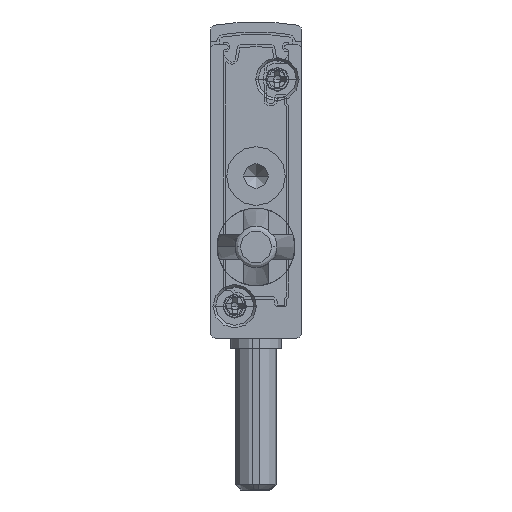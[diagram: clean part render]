
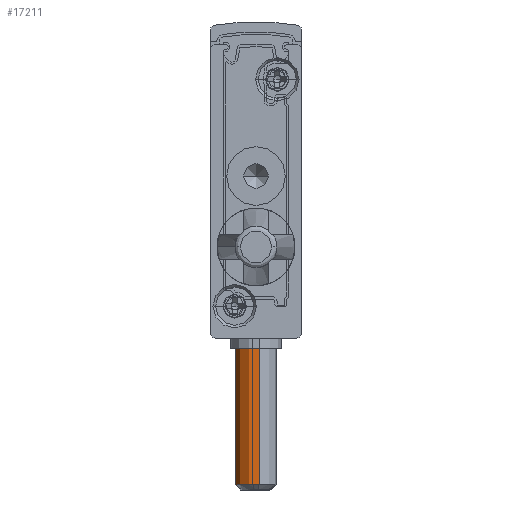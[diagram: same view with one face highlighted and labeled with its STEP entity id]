
A CAD part, front view. The second image highlights one B-rep face of the part: STEP entity #17211.
In plain terms, the highlighted cylindrical face has radius 2 mm (diameter 4 mm), a partial arc.
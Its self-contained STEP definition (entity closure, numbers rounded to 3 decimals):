
#753 = EDGE_CURVE ( 'NONE', #29973, #27227, #32792, .T. ) ;
#3829 = CIRCLE ( 'NONE', #32433, 2. ) ;
#4723 = VECTOR ( 'NONE', #4887, 1000. ) ;
#4803 = DIRECTION ( 'NONE',  ( 0., 0., -1. ) ) ;
#4887 = DIRECTION ( 'NONE',  ( 0., 0., 1. ) ) ;
#6397 = CARTESIAN_POINT ( 'NONE',  ( -4.801, 2574.477, -1. ) ) ;
#7957 = CARTESIAN_POINT ( 'NONE',  ( -4.199, 2570.523, -15. ) ) ;
#8160 = VERTEX_POINT ( 'NONE', #32680 ) ;
#8552 = VECTOR ( 'NONE', #31752, 1000. ) ;
#9531 = AXIS2_PLACEMENT_3D ( 'NONE', #30850, #4803, #28291 ) ;
#11361 = ORIENTED_EDGE ( 'NONE', *, *, #33575, .T. ) ;
#11560 = CYLINDRICAL_SURFACE ( 'NONE', #23673, 2. ) ;
#12357 = ORIENTED_EDGE ( 'NONE', *, *, #20416, .T. ) ;
#12433 = CARTESIAN_POINT ( 'NONE',  ( -4.801, 2574.477, -14.5 ) ) ;
#12617 = CARTESIAN_POINT ( 'NONE',  ( -4.199, 2570.523, -1. ) ) ;
#13318 = CARTESIAN_POINT ( 'NONE',  ( -4.5, 2572.5, -15. ) ) ;
#15384 = DIRECTION ( 'NONE',  ( 0., 0., 1. ) ) ;
#15576 = LINE ( 'NONE', #7957, #8552 ) ;
#16773 = ORIENTED_EDGE ( 'NONE', *, *, #27344, .T. ) ;
#17211 = ADVANCED_FACE ( 'NONE', ( #21028 ), #11560, .T. ) ;
#17368 = CARTESIAN_POINT ( 'NONE',  ( -4.5, 2572.5, -14.5 ) ) ;
#19667 = ORIENTED_EDGE ( 'NONE', *, *, #753, .F. ) ;
#20416 = EDGE_CURVE ( 'NONE', #8160, #28880, #15576, .T. ) ;
#21028 = FACE_OUTER_BOUND ( 'NONE', #31628, .T. ) ;
#23075 = CARTESIAN_POINT ( 'NONE',  ( -4.801, 2574.477, -15. ) ) ;
#23673 = AXIS2_PLACEMENT_3D ( 'NONE', #13318, #26795, #23802 ) ;
#23802 = DIRECTION ( 'NONE',  ( -0.15, 0.989, 0. ) ) ;
#26795 = DIRECTION ( 'NONE',  ( 0., 0., 1. ) ) ;
#27227 = VERTEX_POINT ( 'NONE', #6397 ) ;
#27344 = EDGE_CURVE ( 'NONE', #29973, #8160, #3829, .T. ) ;
#28291 = DIRECTION ( 'NONE',  ( 0.15, -0.989, 0. ) ) ;
#28880 = VERTEX_POINT ( 'NONE', #12617 ) ;
#29973 = VERTEX_POINT ( 'NONE', #12433 ) ;
#30850 = CARTESIAN_POINT ( 'NONE',  ( -4.5, 2572.5, -1. ) ) ;
#31436 = DIRECTION ( 'NONE',  ( 0.15, -0.989, 0. ) ) ;
#31628 = EDGE_LOOP ( 'NONE', ( #16773, #12357, #11361, #19667 ) ) ;
#31752 = DIRECTION ( 'NONE',  ( 0., 0., 1. ) ) ;
#32433 = AXIS2_PLACEMENT_3D ( 'NONE', #17368, #15384, #31436 ) ;
#32649 = CIRCLE ( 'NONE', #9531, 2. ) ;
#32680 = CARTESIAN_POINT ( 'NONE',  ( -4.199, 2570.523, -14.5 ) ) ;
#32792 = LINE ( 'NONE', #23075, #4723 ) ;
#33575 = EDGE_CURVE ( 'NONE', #28880, #27227, #32649, .T. ) ;
